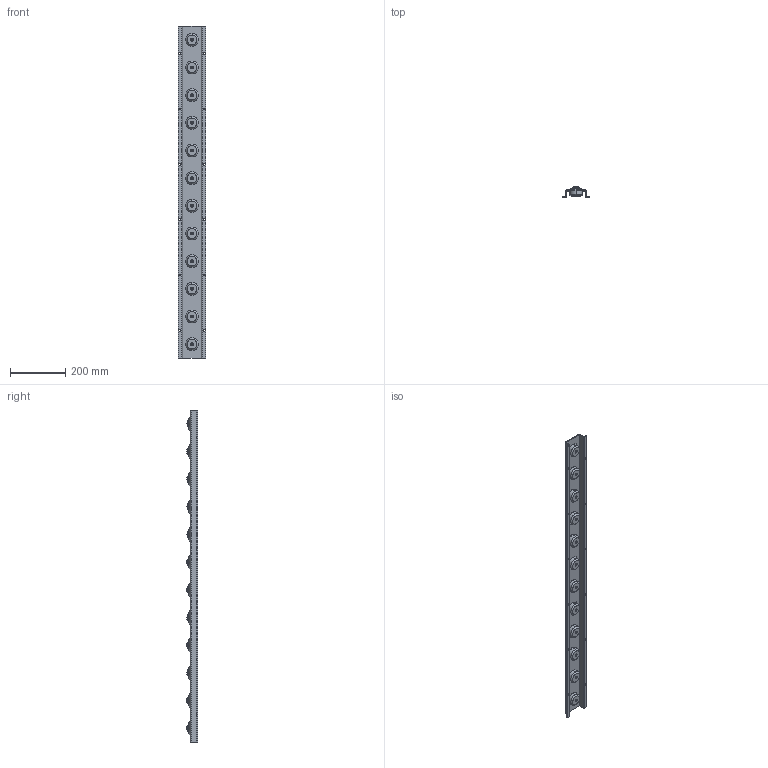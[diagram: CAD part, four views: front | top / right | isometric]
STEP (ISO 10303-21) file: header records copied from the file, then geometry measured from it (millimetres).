
FILE_DESCRIPTION (( 'STEP AP203' ), '1' );
FILE_NAME ('PVUFH-12.STEP', '2016-03-07T04:21:29', ( '' ), ( '' ), 'SwSTEP 2.0', 'SolidWorks 2013', '' );
FILE_SCHEMA (( 'CONFIG_CONTROL_DESIGN' ));
Length unit declared in the file: millimetre
Products named in the file (1): PVUFH-12
Bounding box: 100 x 40 x 1200 mm (x, y, z)
Volume: 1015501.6 mm3; surface area: 393721.7 mm2
Topology: 1 solids, 1 shells, 550 faces, 1140 edges, 748 vertices
Faces by surface type: cylinder 296, plane 158, cone 72, sphere 24
Entity records: 15057 total; most frequent: DIRECTION 2978, CARTESIAN_POINT 2439, ORIENTED_EDGE 2280, AXIS2_PLACEMENT_3D 1287, EDGE_CURVE 1140, VERTEX_POINT 748, CIRCLE 736, EDGE_LOOP 730
